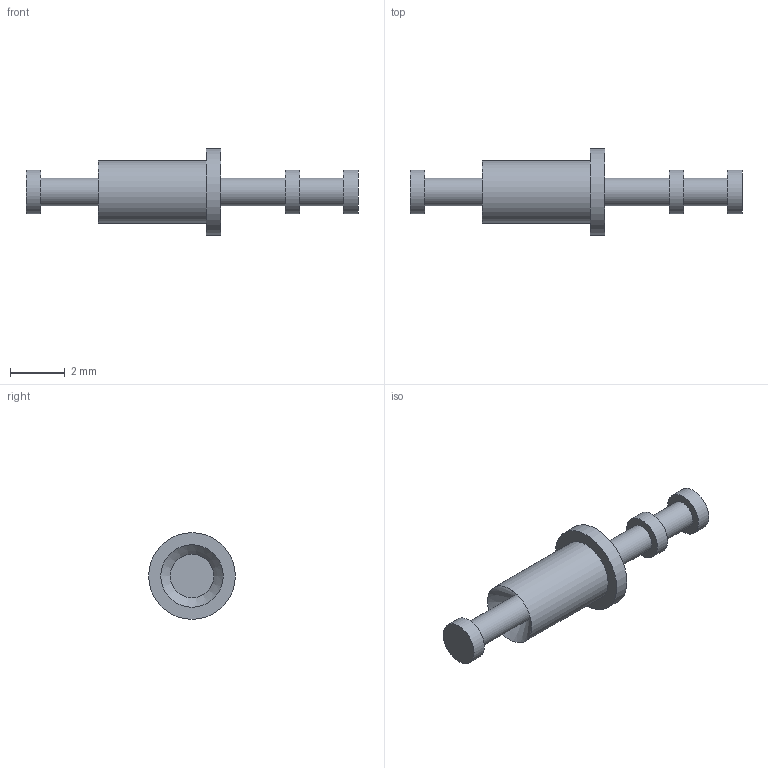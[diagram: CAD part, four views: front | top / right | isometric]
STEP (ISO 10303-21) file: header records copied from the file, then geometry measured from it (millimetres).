
FILE_DESCRIPTION(/* description */ (''),/* implementation_level */ '2;1');
FILE_NAME(/* name */ 'Z:\STEP folder\160-2000-04.ipt.stp',/* time_stamp */ '2016-12-07T10:49:34+00:00',/* author */ ('Paul Karlsons'),/* organization */ (''),/* preprocessor_version */ 'ST-DEVELOPER v15.2',/* originating_system */ 'Autodesk Inventor 2014',/* authorisation */ '');
FILE_SCHEMA (('AUTOMOTIVE_DESIGN { 1 0 10303 214 3 1 1 }'));
Length unit declared in the file: millimetre
Products named in the file (1): 160-2000-04
Bounding box: 12.16 x 3.17 x 3.17 mm (x, y, z)
Volume: 27.7 mm3; surface area: 87.6 mm2
Topology: 1 solids, 1 shells, 17 faces, 25 edges, 16 vertices
Faces by surface type: cylinder 8, plane 8, cone 1
Full cylindrical faces by diameter (mm): 1.016 x3, 1.6 x3, 2.286 x1, 3.175 x1
Entity records: 355 total; most frequent: DIRECTION 68, CARTESIAN_POINT 50, AXIS2_PLACEMENT_3D 34, EDGE_LOOP 32, ORIENTED_EDGE 32, FACE_BOUND 18, ADVANCED_FACE 17, CIRCLE 16
